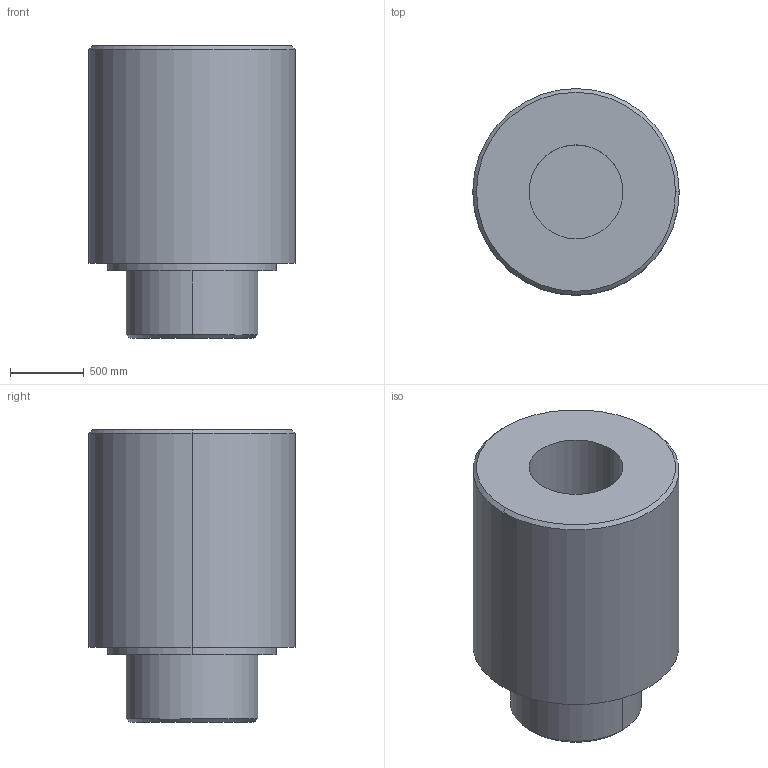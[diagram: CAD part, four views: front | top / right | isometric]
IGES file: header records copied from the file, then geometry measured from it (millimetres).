
Start section:  PTC IGES file: sc-80.igs
Global section: file name: sc-80.igs; native system: Pro/ENGINEER by Parametric Technology Corporation; preprocessor: 2008230; author: Owner; organization: Unknown; date: 20121121.163237; units: inch
Bounding box: 1397 x 1397 x 1981.2 mm (x, y, z)
Surface area: 12402071 mm2 (no closed solid volume)
Topology: 0 solids, 0 shells, 17 faces, 64 edges, 64 vertices
Faces by surface type: revolution 12, bspline 5
